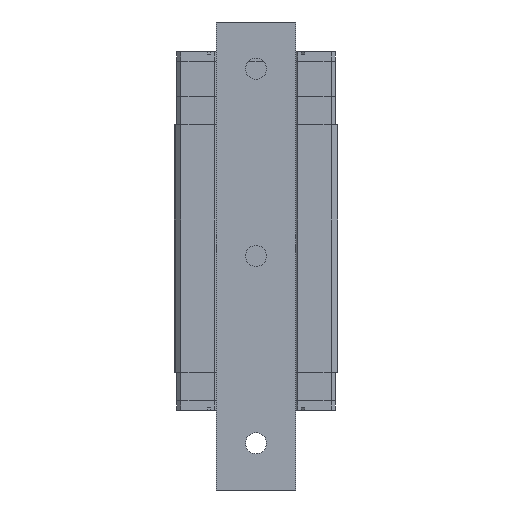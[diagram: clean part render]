
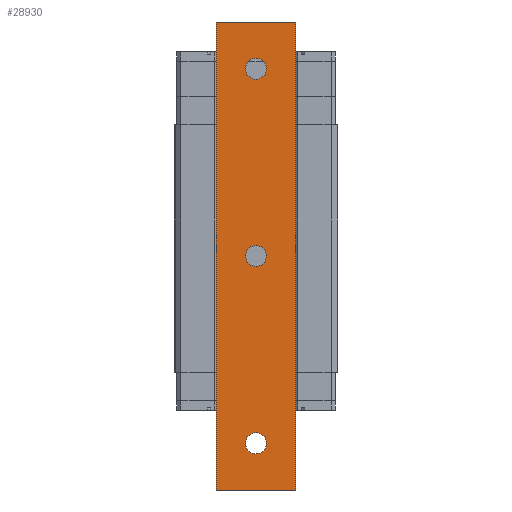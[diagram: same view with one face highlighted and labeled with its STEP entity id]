
A CAD part, front view. The second image highlights one B-rep face of the part: STEP entity #28930.
In plain terms, the highlighted planar face has unit normal (0, -1, 0).
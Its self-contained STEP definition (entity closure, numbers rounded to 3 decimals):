
#24 = CIRCLE ( 'NONE', #27901, 4.5 ) ;
#43 = CARTESIAN_POINT ( 'NONE',  ( 0., -7.4, -84.5 ) ) ;
#518 = CARTESIAN_POINT ( 'NONE',  ( 0., -7.4, -4.5 ) ) ;
#567 = DIRECTION ( 'NONE',  ( 0., 0., -1. ) ) ;
#625 = CARTESIAN_POINT ( 'NONE',  ( 0., -7.4, 75.5 ) ) ;
#907 = DIRECTION ( 'NONE',  ( 0., -1., 0. ) ) ;
#1111 = CIRCLE ( 'NONE', #1225, 4.5 ) ;
#1225 = AXIS2_PLACEMENT_3D ( 'NONE', #13921, #15676, #1635 ) ;
#1368 = CARTESIAN_POINT ( 'NONE',  ( 17., -7.4, 100. ) ) ;
#1506 = CARTESIAN_POINT ( 'NONE',  ( -17., -7.4, 100. ) ) ;
#1633 = EDGE_CURVE ( 'NONE', #1806, #12678, #1111, .T. ) ;
#1635 = DIRECTION ( 'NONE',  ( 0., 0., -1. ) ) ;
#1806 = VERTEX_POINT ( 'NONE', #3584 ) ;
#2044 = LINE ( 'NONE', #1506, #13008 ) ;
#2098 = DIRECTION ( 'NONE',  ( 0., 0., -1. ) ) ;
#2379 = CARTESIAN_POINT ( 'NONE',  ( 0., -7.4, -75.5 ) ) ;
#2588 = DIRECTION ( 'NONE',  ( 0., -1., 0. ) ) ;
#2929 = FACE_BOUND ( 'NONE', #27408, .T. ) ;
#3584 = CARTESIAN_POINT ( 'NONE',  ( 0., -7.4, 4.5 ) ) ;
#3754 = VERTEX_POINT ( 'NONE', #1368 ) ;
#4818 = VECTOR ( 'NONE', #14170, 1000. ) ;
#5398 = EDGE_CURVE ( 'NONE', #16926, #3754, #8844, .T. ) ;
#5546 = VERTEX_POINT ( 'NONE', #625 ) ;
#5637 = DIRECTION ( 'NONE',  ( 0., 0., -1. ) ) ;
#5821 = FACE_BOUND ( 'NONE', #12741, .T. ) ;
#6634 = DIRECTION ( 'NONE',  ( 0., 0., 1. ) ) ;
#7418 = EDGE_CURVE ( 'NONE', #12379, #18804, #26529, .T. ) ;
#7600 = ORIENTED_EDGE ( 'NONE', *, *, #18280, .F. ) ;
#8589 = ORIENTED_EDGE ( 'NONE', *, *, #30064, .T. ) ;
#8730 = DIRECTION ( 'NONE',  ( 0., 0., -1. ) ) ;
#8838 = ORIENTED_EDGE ( 'NONE', *, *, #1633, .F. ) ;
#8844 = LINE ( 'NONE', #26029, #10329 ) ;
#9700 = CARTESIAN_POINT ( 'NONE',  ( 0., -7.4, 84.5 ) ) ;
#9974 = CARTESIAN_POINT ( 'NONE',  ( 17., -7.4, 100. ) ) ;
#10329 = VECTOR ( 'NONE', #18850, 1000. ) ;
#10443 = ORIENTED_EDGE ( 'NONE', *, *, #28615, .T. ) ;
#10532 = VERTEX_POINT ( 'NONE', #21427 ) ;
#10715 = AXIS2_PLACEMENT_3D ( 'NONE', #17781, #25364, #2098 ) ;
#10964 = FACE_OUTER_BOUND ( 'NONE', #29380, .T. ) ;
#11360 = PLANE ( 'NONE',  #20534 ) ;
#11934 = ORIENTED_EDGE ( 'NONE', *, *, #5398, .F. ) ;
#11953 = ORIENTED_EDGE ( 'NONE', *, *, #7418, .F. ) ;
#12228 = DIRECTION ( 'NONE',  ( 0., 0., -1. ) ) ;
#12379 = VERTEX_POINT ( 'NONE', #2379 ) ;
#12678 = VERTEX_POINT ( 'NONE', #518 ) ;
#12741 = EDGE_LOOP ( 'NONE', ( #24656, #8838 ) ) ;
#13008 = VECTOR ( 'NONE', #8730, 1000. ) ;
#13921 = CARTESIAN_POINT ( 'NONE',  ( 0., -7.4, 0. ) ) ;
#13965 = ORIENTED_EDGE ( 'NONE', *, *, #29778, .F. ) ;
#14170 = DIRECTION ( 'NONE',  ( 1., 0., 0. ) ) ;
#14379 = CARTESIAN_POINT ( 'NONE',  ( -17., -7.4, 100. ) ) ;
#15676 = DIRECTION ( 'NONE',  ( 0., -1., 0. ) ) ;
#15848 = EDGE_LOOP ( 'NONE', ( #7600, #27356 ) ) ;
#15965 = VERTEX_POINT ( 'NONE', #24648 ) ;
#16664 = CIRCLE ( 'NONE', #10715, 4.5 ) ;
#16716 = CIRCLE ( 'NONE', #22999, 4.5 ) ;
#16926 = VERTEX_POINT ( 'NONE', #14379 ) ;
#17221 = CIRCLE ( 'NONE', #20458, 4.5 ) ;
#17781 = CARTESIAN_POINT ( 'NONE',  ( 0., -7.4, 0. ) ) ;
#18280 = EDGE_CURVE ( 'NONE', #5546, #29191, #24, .T. ) ;
#18804 = VERTEX_POINT ( 'NONE', #43 ) ;
#18850 = DIRECTION ( 'NONE',  ( 1., 0., 0. ) ) ;
#19312 = CARTESIAN_POINT ( 'NONE',  ( 0., -7.4, -80. ) ) ;
#19964 = CARTESIAN_POINT ( 'NONE',  ( 0., -7.4, 80. ) ) ;
#20458 = AXIS2_PLACEMENT_3D ( 'NONE', #19964, #907, #5637 ) ;
#20534 = AXIS2_PLACEMENT_3D ( 'NONE', #25354, #27694, #6634 ) ;
#21427 = CARTESIAN_POINT ( 'NONE',  ( -17., -7.4, -100. ) ) ;
#21663 = EDGE_CURVE ( 'NONE', #18804, #12379, #16716, .T. ) ;
#21926 = VECTOR ( 'NONE', #12228, 1000. ) ;
#21933 = DIRECTION ( 'NONE',  ( 0., -1., 0. ) ) ;
#22675 = AXIS2_PLACEMENT_3D ( 'NONE', #19312, #21933, #28670 ) ;
#22790 = ORIENTED_EDGE ( 'NONE', *, *, #21663, .F. ) ;
#22999 = AXIS2_PLACEMENT_3D ( 'NONE', #28369, #2588, #23810 ) ;
#23331 = CARTESIAN_POINT ( 'NONE',  ( -17., -7.4, -100. ) ) ;
#23810 = DIRECTION ( 'NONE',  ( 0., 0., -1. ) ) ;
#24648 = CARTESIAN_POINT ( 'NONE',  ( 17., -7.4, -100. ) ) ;
#24656 = ORIENTED_EDGE ( 'NONE', *, *, #25511, .F. ) ;
#24984 = EDGE_CURVE ( 'NONE', #29191, #5546, #17221, .T. ) ;
#25354 = CARTESIAN_POINT ( 'NONE',  ( -17., -7.4, 100. ) ) ;
#25364 = DIRECTION ( 'NONE',  ( 0., -1., 0. ) ) ;
#25511 = EDGE_CURVE ( 'NONE', #12678, #1806, #16664, .T. ) ;
#25652 = LINE ( 'NONE', #9974, #21926 ) ;
#26029 = CARTESIAN_POINT ( 'NONE',  ( -17., -7.4, 100. ) ) ;
#26191 = LINE ( 'NONE', #23331, #4818 ) ;
#26529 = CIRCLE ( 'NONE', #22675, 4.5 ) ;
#26581 = DIRECTION ( 'NONE',  ( 0., -1., 0. ) ) ;
#26685 = CARTESIAN_POINT ( 'NONE',  ( 0., -7.4, 80. ) ) ;
#27356 = ORIENTED_EDGE ( 'NONE', *, *, #24984, .F. ) ;
#27408 = EDGE_LOOP ( 'NONE', ( #22790, #11953 ) ) ;
#27694 = DIRECTION ( 'NONE',  ( 0., 1., 0. ) ) ;
#27901 = AXIS2_PLACEMENT_3D ( 'NONE', #26685, #26581, #567 ) ;
#28369 = CARTESIAN_POINT ( 'NONE',  ( 0., -7.4, -80. ) ) ;
#28615 = EDGE_CURVE ( 'NONE', #10532, #15965, #26191, .T. ) ;
#28670 = DIRECTION ( 'NONE',  ( 0., 0., -1. ) ) ;
#28930 = ADVANCED_FACE ( 'NONE', ( #2929, #5821, #30140, #10964 ), #11360, .F. ) ;
#29191 = VERTEX_POINT ( 'NONE', #9700 ) ;
#29380 = EDGE_LOOP ( 'NONE', ( #8589, #10443, #13965, #11934 ) ) ;
#29778 = EDGE_CURVE ( 'NONE', #3754, #15965, #25652, .T. ) ;
#30064 = EDGE_CURVE ( 'NONE', #16926, #10532, #2044, .T. ) ;
#30140 = FACE_BOUND ( 'NONE', #15848, .T. ) ;
